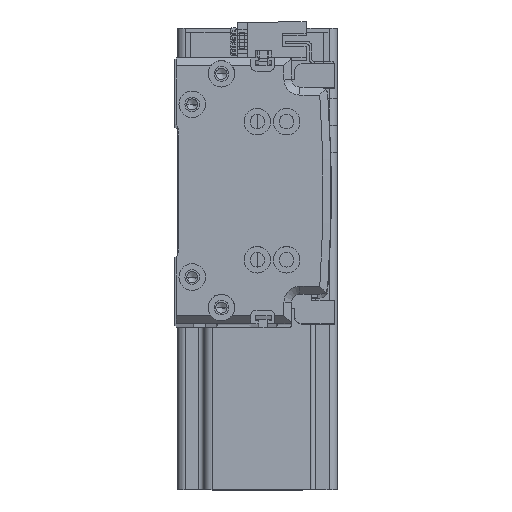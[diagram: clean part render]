
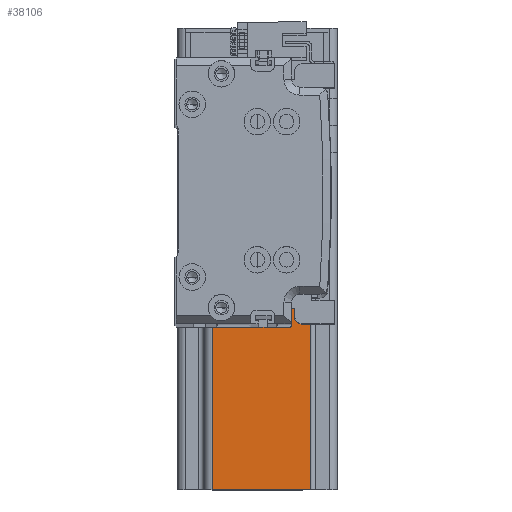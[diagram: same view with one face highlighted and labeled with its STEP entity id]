
A CAD part, top view. The second image highlights one B-rep face of the part: STEP entity #38106.
In plain terms, the highlighted planar face has unit normal (0, 0, 1) as drawn and (-1, 0, 0) by its records, which use the part's own axes.
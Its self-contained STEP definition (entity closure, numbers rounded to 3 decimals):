
#298 = AXIS2_PLACEMENT_3D ( 'NONE', #1578, #28654, #5502 ) ;
#1367 = LINE ( 'NONE', #25819, #49210 ) ;
#1578 = CARTESIAN_POINT ( 'NONE',  ( -30., -30., 137. ) ) ;
#1795 = EDGE_CURVE ( 'NONE', #47140, #38265, #12436, .T. ) ;
#2344 = DIRECTION ( 'NONE',  ( 0., -1., 0. ) ) ;
#2724 = CARTESIAN_POINT ( 'NONE',  ( -30., 27., 10. ) ) ;
#2742 = EDGE_CURVE ( 'NONE', #15449, #37899, #1367, .T. ) ;
#3460 = LINE ( 'NONE', #18513, #22857 ) ;
#4954 = ORIENTED_EDGE ( 'NONE', *, *, #35827, .T. ) ;
#5502 = DIRECTION ( 'NONE',  ( 0., 0., -1. ) ) ;
#5612 = LINE ( 'NONE', #22269, #45556 ) ;
#6808 = DIRECTION ( 'NONE',  ( 0., -1., 0. ) ) ;
#8553 = VECTOR ( 'NONE', #2344, 1000. ) ;
#8634 = EDGE_CURVE ( 'NONE', #37899, #38265, #5612, .T. ) ;
#9968 = LINE ( 'NONE', #39129, #40885 ) ;
#10050 = CARTESIAN_POINT ( 'NONE',  ( -30., -17., 10. ) ) ;
#11638 = VERTEX_POINT ( 'NONE', #13311 ) ;
#12008 = DIRECTION ( 'NONE',  ( 0., 0., 1. ) ) ;
#12208 = CARTESIAN_POINT ( 'NONE',  ( -30., 27., 137. ) ) ;
#12436 = LINE ( 'NONE', #31380, #31818 ) ;
#12672 = CARTESIAN_POINT ( 'NONE',  ( -30., 20., 10. ) ) ;
#13311 = CARTESIAN_POINT ( 'NONE',  ( -30., -27., 10. ) ) ;
#15449 = VERTEX_POINT ( 'NONE', #12672 ) ;
#16101 = ORIENTED_EDGE ( 'NONE', *, *, #33294, .T. ) ;
#17251 = VERTEX_POINT ( 'NONE', #33809 ) ;
#18513 = CARTESIAN_POINT ( 'NONE',  ( -30., 30., 10. ) ) ;
#18533 = DIRECTION ( 'NONE',  ( 0., -1., 0. ) ) ;
#18727 = CARTESIAN_POINT ( 'NONE',  ( -30., 20., 137. ) ) ;
#19923 = EDGE_LOOP ( 'NONE', ( #29462, #26589, #21908, #33933, #39306, #50078, #16101, #4954 ) ) ;
#21908 = ORIENTED_EDGE ( 'NONE', *, *, #8634, .F. ) ;
#22269 = CARTESIAN_POINT ( 'NONE',  ( -30., -30., 137. ) ) ;
#22857 = VECTOR ( 'NONE', #49471, 1000. ) ;
#23022 = CARTESIAN_POINT ( 'NONE',  ( -30., 27., 0. ) ) ;
#24477 = EDGE_CURVE ( 'NONE', #15449, #27416, #3460, .T. ) ;
#25819 = CARTESIAN_POINT ( 'NONE',  ( -30., 20., 10. ) ) ;
#26589 = ORIENTED_EDGE ( 'NONE', *, *, #1795, .T. ) ;
#27416 = VERTEX_POINT ( 'NONE', #2724 ) ;
#28482 = PLANE ( 'NONE',  #298 ) ;
#28654 = DIRECTION ( 'NONE',  ( 1., 0., 0. ) ) ;
#29462 = ORIENTED_EDGE ( 'NONE', *, *, #42337, .F. ) ;
#29942 = CARTESIAN_POINT ( 'NONE',  ( -30., -30., 10. ) ) ;
#30249 = LINE ( 'NONE', #12208, #40589 ) ;
#31380 = CARTESIAN_POINT ( 'NONE',  ( -30., -17., 137. ) ) ;
#31818 = VECTOR ( 'NONE', #39230, 1000. ) ;
#33294 = EDGE_CURVE ( 'NONE', #49477, #17251, #49739, .T. ) ;
#33363 = CARTESIAN_POINT ( 'NONE',  ( -30., -17., 137. ) ) ;
#33588 = DIRECTION ( 'NONE',  ( 0., 0., 1. ) ) ;
#33809 = CARTESIAN_POINT ( 'NONE',  ( -30., -27., 0. ) ) ;
#33933 = ORIENTED_EDGE ( 'NONE', *, *, #2742, .F. ) ;
#35426 = DIRECTION ( 'NONE',  ( 0., 0., -1. ) ) ;
#35827 = EDGE_CURVE ( 'NONE', #17251, #11638, #9968, .T. ) ;
#36181 = VECTOR ( 'NONE', #6808, 1000. ) ;
#37899 = VERTEX_POINT ( 'NONE', #18727 ) ;
#38106 = ADVANCED_FACE ( 'NONE', ( #47254 ), #28482, .F. ) ;
#38265 = VERTEX_POINT ( 'NONE', #33363 ) ;
#39129 = CARTESIAN_POINT ( 'NONE',  ( -30., -27., 137. ) ) ;
#39230 = DIRECTION ( 'NONE',  ( 0., 0., 1. ) ) ;
#39306 = ORIENTED_EDGE ( 'NONE', *, *, #24477, .T. ) ;
#40589 = VECTOR ( 'NONE', #35426, 1000. ) ;
#40885 = VECTOR ( 'NONE', #12008, 1000. ) ;
#41040 = EDGE_CURVE ( 'NONE', #27416, #49477, #30249, .T. ) ;
#42337 = EDGE_CURVE ( 'NONE', #47140, #11638, #47655, .T. ) ;
#45556 = VECTOR ( 'NONE', #18533, 1000. ) ;
#47140 = VERTEX_POINT ( 'NONE', #10050 ) ;
#47254 = FACE_OUTER_BOUND ( 'NONE', #19923, .T. ) ;
#47655 = LINE ( 'NONE', #29942, #36181 ) ;
#48733 = CARTESIAN_POINT ( 'NONE',  ( -30., -30., 0. ) ) ;
#49210 = VECTOR ( 'NONE', #33588, 1000. ) ;
#49471 = DIRECTION ( 'NONE',  ( 0., 1., 0. ) ) ;
#49477 = VERTEX_POINT ( 'NONE', #23022 ) ;
#49739 = LINE ( 'NONE', #48733, #8553 ) ;
#50078 = ORIENTED_EDGE ( 'NONE', *, *, #41040, .T. ) ;
